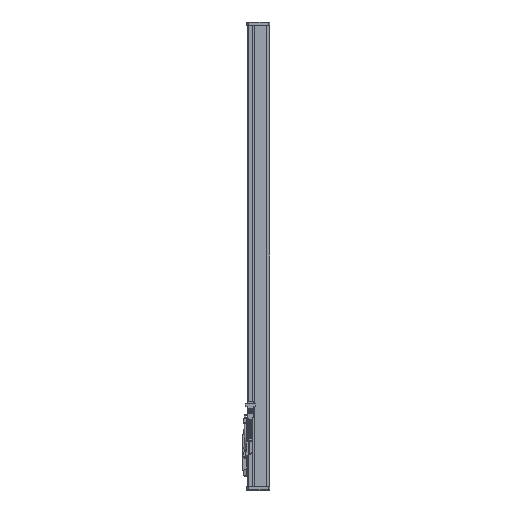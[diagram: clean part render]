
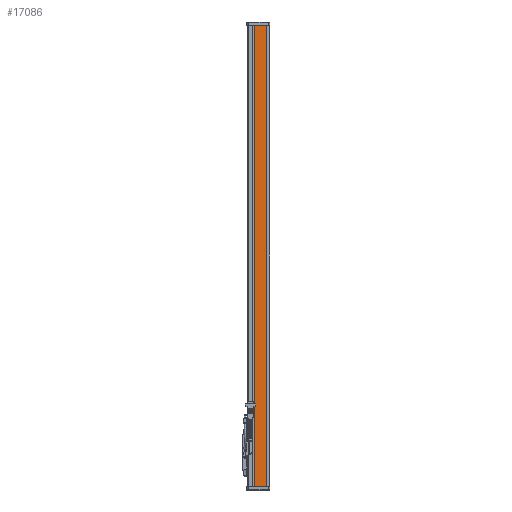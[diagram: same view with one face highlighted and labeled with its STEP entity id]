
A CAD part, left-side view. The second image highlights one B-rep face of the part: STEP entity #17086.
In plain terms, the highlighted planar face has unit normal (-1, 0, 0).
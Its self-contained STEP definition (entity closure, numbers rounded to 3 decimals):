
#144 = PLANE('',#145);
#145 = AXIS2_PLACEMENT_3D('',#146,#147,#148);
#146 = CARTESIAN_POINT('',(-36.5,59.6,1290.));
#147 = DIRECTION('',(0.,0.,1.));
#148 = DIRECTION('',(1.,0.,-0.));
#809 = PLANE('',#810);
#810 = AXIS2_PLACEMENT_3D('',#811,#812,#813);
#811 = CARTESIAN_POINT('',(-36.5,59.6,0.));
#812 = DIRECTION('',(0.,0.,1.));
#813 = DIRECTION('',(1.,0.,-0.));
#10861 = VERTEX_POINT('',#10862);
#10862 = CARTESIAN_POINT('',(-40.5,43.6,1290.));
#10876 = PLANE('',#10877);
#10877 = AXIS2_PLACEMENT_3D('',#10878,#10879,#10880);
#10878 = CARTESIAN_POINT('',(-40.,43.6,1290.));
#10879 = DIRECTION('',(0.,1.,0.));
#10880 = DIRECTION('',(0.,-0.,1.));
#10888 = EDGE_CURVE('',#10861,#10889,#10891,.T.);
#10889 = VERTEX_POINT('',#10890);
#10890 = CARTESIAN_POINT('',(-40.5,11.,1290.));
#10891 = SURFACE_CURVE('',#10892,(#10896,#10903),.PCURVE_S1.);
#10892 = LINE('',#10893,#10894);
#10893 = CARTESIAN_POINT('',(-40.5,19.,1290.));
#10894 = VECTOR('',#10895,1.);
#10895 = DIRECTION('',(0.,-1.,0.));
#10896 = PCURVE('',#144,#10897);
#10897 = DEFINITIONAL_REPRESENTATION('',(#10898),#10902);
#10898 = LINE('',#10899,#10900);
#10899 = CARTESIAN_POINT('',(-4.,-40.6));
#10900 = VECTOR('',#10901,1.);
#10901 = DIRECTION('',(0.,-1.));
#10902 = ( GEOMETRIC_REPRESENTATION_CONTEXT(2) 
PARAMETRIC_REPRESENTATION_CONTEXT() REPRESENTATION_CONTEXT('2D SPACE',''
  ) );
#10903 = PCURVE('',#10904,#10909);
#10904 = PLANE('',#10905);
#10905 = AXIS2_PLACEMENT_3D('',#10906,#10907,#10908);
#10906 = CARTESIAN_POINT('',(-40.5,19.,1290.));
#10907 = DIRECTION('',(1.,0.,-0.));
#10908 = DIRECTION('',(-0.,0.,-1.));
#10909 = DEFINITIONAL_REPRESENTATION('',(#10910),#10914);
#10910 = LINE('',#10911,#10912);
#10911 = CARTESIAN_POINT('',(0.,0.));
#10912 = VECTOR('',#10913,1.);
#10913 = DIRECTION('',(-0.,-1.));
#10914 = ( GEOMETRIC_REPRESENTATION_CONTEXT(2) 
PARAMETRIC_REPRESENTATION_CONTEXT() REPRESENTATION_CONTEXT('2D SPACE',''
  ) );
#10932 = PLANE('',#10933);
#10933 = AXIS2_PLACEMENT_3D('',#10934,#10935,#10936);
#10934 = CARTESIAN_POINT('',(-41.,10.5,1290.));
#10935 = DIRECTION('',(0.707,-0.707,0.));
#10936 = DIRECTION('',(0.707,0.707,0.));
#12278 = VERTEX_POINT('',#12279);
#12279 = CARTESIAN_POINT('',(-40.5,11.,0.));
#12300 = EDGE_CURVE('',#12301,#12278,#12303,.T.);
#12301 = VERTEX_POINT('',#12302);
#12302 = CARTESIAN_POINT('',(-40.5,43.6,0.));
#12303 = SURFACE_CURVE('',#12304,(#12308,#12315),.PCURVE_S1.);
#12304 = LINE('',#12305,#12306);
#12305 = CARTESIAN_POINT('',(-40.5,19.,0.));
#12306 = VECTOR('',#12307,1.);
#12307 = DIRECTION('',(0.,-1.,0.));
#12308 = PCURVE('',#809,#12309);
#12309 = DEFINITIONAL_REPRESENTATION('',(#12310),#12314);
#12310 = LINE('',#12311,#12312);
#12311 = CARTESIAN_POINT('',(-4.,-40.6));
#12312 = VECTOR('',#12313,1.);
#12313 = DIRECTION('',(0.,-1.));
#12314 = ( GEOMETRIC_REPRESENTATION_CONTEXT(2) 
PARAMETRIC_REPRESENTATION_CONTEXT() REPRESENTATION_CONTEXT('2D SPACE',''
  ) );
#12315 = PCURVE('',#10904,#12316);
#12316 = DEFINITIONAL_REPRESENTATION('',(#12317),#12321);
#12317 = LINE('',#12318,#12319);
#12318 = CARTESIAN_POINT('',(1290.,0.));
#12319 = VECTOR('',#12320,1.);
#12320 = DIRECTION('',(-0.,-1.));
#12321 = ( GEOMETRIC_REPRESENTATION_CONTEXT(2) 
PARAMETRIC_REPRESENTATION_CONTEXT() REPRESENTATION_CONTEXT('2D SPACE',''
  ) );
#14793 = EDGE_CURVE('',#10889,#12278,#14794,.T.);
#14794 = SURFACE_CURVE('',#14795,(#14799,#14806),.PCURVE_S1.);
#14795 = LINE('',#14796,#14797);
#14796 = CARTESIAN_POINT('',(-40.5,11.,1290.));
#14797 = VECTOR('',#14798,1.);
#14798 = DIRECTION('',(-0.,-0.,-1.));
#14799 = PCURVE('',#10932,#14800);
#14800 = DEFINITIONAL_REPRESENTATION('',(#14801),#14805);
#14801 = LINE('',#14802,#14803);
#14802 = CARTESIAN_POINT('',(0.707,0.));
#14803 = VECTOR('',#14804,1.);
#14804 = DIRECTION('',(0.,-1.));
#14805 = ( GEOMETRIC_REPRESENTATION_CONTEXT(2) 
PARAMETRIC_REPRESENTATION_CONTEXT() REPRESENTATION_CONTEXT('2D SPACE',''
  ) );
#14806 = PCURVE('',#10904,#14807);
#14807 = DEFINITIONAL_REPRESENTATION('',(#14808),#14812);
#14808 = LINE('',#14809,#14810);
#14809 = CARTESIAN_POINT('',(-0.,-8.));
#14810 = VECTOR('',#14811,1.);
#14811 = DIRECTION('',(1.,-0.));
#14812 = ( GEOMETRIC_REPRESENTATION_CONTEXT(2) 
PARAMETRIC_REPRESENTATION_CONTEXT() REPRESENTATION_CONTEXT('2D SPACE',''
  ) );
#17086 = ADVANCED_FACE('',(#17087),#10904,.F.);
#17087 = FACE_BOUND('',#17088,.T.);
#17088 = EDGE_LOOP('',(#17089,#17090,#17091,#17092));
#17089 = ORIENTED_EDGE('',*,*,#12300,.T.);
#17090 = ORIENTED_EDGE('',*,*,#14793,.F.);
#17091 = ORIENTED_EDGE('',*,*,#10888,.F.);
#17092 = ORIENTED_EDGE('',*,*,#17093,.F.);
#17093 = EDGE_CURVE('',#12301,#10861,#17094,.T.);
#17094 = SURFACE_CURVE('',#17095,(#17099,#17106),.PCURVE_S1.);
#17095 = LINE('',#17096,#17097);
#17096 = CARTESIAN_POINT('',(-40.5,43.6,1290.));
#17097 = VECTOR('',#17098,1.);
#17098 = DIRECTION('',(0.,0.,1.));
#17099 = PCURVE('',#10904,#17100);
#17100 = DEFINITIONAL_REPRESENTATION('',(#17101),#17105);
#17101 = LINE('',#17102,#17103);
#17102 = CARTESIAN_POINT('',(0.,24.6));
#17103 = VECTOR('',#17104,1.);
#17104 = DIRECTION('',(-1.,0.));
#17105 = ( GEOMETRIC_REPRESENTATION_CONTEXT(2) 
PARAMETRIC_REPRESENTATION_CONTEXT() REPRESENTATION_CONTEXT('2D SPACE',''
  ) );
#17106 = PCURVE('',#10876,#17107);
#17107 = DEFINITIONAL_REPRESENTATION('',(#17108),#17112);
#17108 = LINE('',#17109,#17110);
#17109 = CARTESIAN_POINT('',(0.,-0.5));
#17110 = VECTOR('',#17111,1.);
#17111 = DIRECTION('',(1.,0.));
#17112 = ( GEOMETRIC_REPRESENTATION_CONTEXT(2) 
PARAMETRIC_REPRESENTATION_CONTEXT() REPRESENTATION_CONTEXT('2D SPACE',''
  ) );
